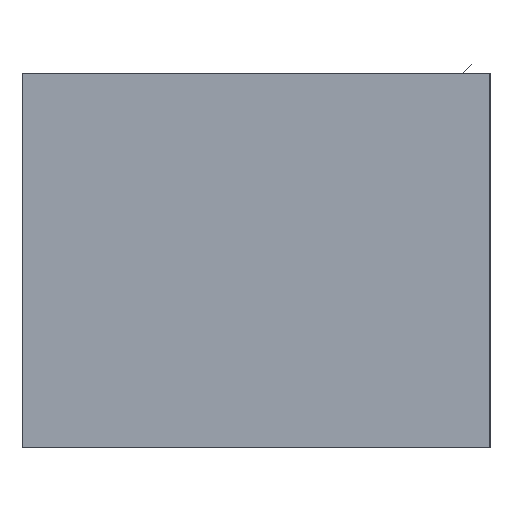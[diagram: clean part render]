
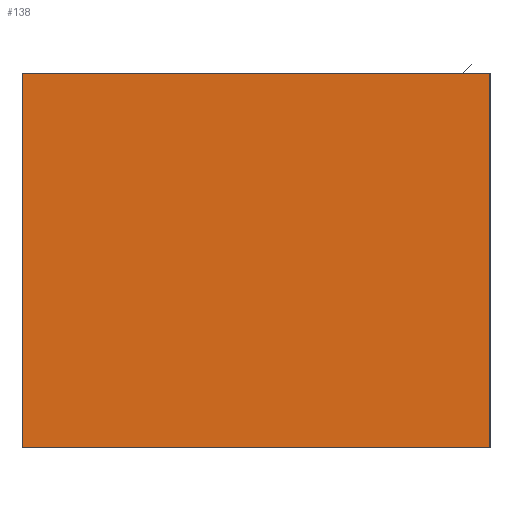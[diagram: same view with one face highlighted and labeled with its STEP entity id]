
A CAD part, left-side view. The second image highlights one B-rep face of the part: STEP entity #138.
In plain terms, the highlighted planar face has unit normal (-1, 0, 0).
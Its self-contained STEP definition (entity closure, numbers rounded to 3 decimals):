
#12 = ORIENTED_EDGE ( 'NONE', *, *, #14, .F. ) ;
#14 = EDGE_CURVE ( 'NONE', #347, #410, #36, .T. ) ;
#29 = AXIS2_PLACEMENT_3D ( 'NONE', #257, #118, #352 ) ;
#36 = LINE ( 'NONE', #174, #401 ) ;
#55 = VECTOR ( 'NONE', #205, 1000. ) ;
#58 = CARTESIAN_POINT ( 'NONE',  ( -250., -50., 1.5 ) ) ;
#81 = VERTEX_POINT ( 'NONE', #294 ) ;
#83 = PLANE ( 'NONE',  #29 ) ;
#86 = VECTOR ( 'NONE', #311, 1000. ) ;
#112 = VECTOR ( 'NONE', #396, 1000. ) ;
#117 = CARTESIAN_POINT ( 'NONE',  ( -250., 50., -78.5 ) ) ;
#118 = DIRECTION ( 'NONE',  ( 1., 0., 0. ) ) ;
#119 = EDGE_CURVE ( 'NONE', #81, #347, #292, .T. ) ;
#129 = VERTEX_POINT ( 'NONE', #117 ) ;
#131 = LINE ( 'NONE', #374, #55 ) ;
#138 = ADVANCED_FACE ( 'NONE', ( #388 ), #83, .F. ) ;
#174 = CARTESIAN_POINT ( 'NONE',  ( -250., -50., 1.5 ) ) ;
#194 = CARTESIAN_POINT ( 'NONE',  ( -250., 178.062, 1.5 ) ) ;
#205 = DIRECTION ( 'NONE',  ( 0., 0., 1. ) ) ;
#217 = ORIENTED_EDGE ( 'NONE', *, *, #438, .T. ) ;
#257 = CARTESIAN_POINT ( 'NONE',  ( -250., 178.062, 1.5 ) ) ;
#292 = LINE ( 'NONE', #194, #112 ) ;
#294 = CARTESIAN_POINT ( 'NONE',  ( -250., 50., 1.5 ) ) ;
#306 = EDGE_LOOP ( 'NONE', ( #315, #217, #12, #420 ) ) ;
#307 = DIRECTION ( 'NONE',  ( 0., 0., -1. ) ) ;
#311 = DIRECTION ( 'NONE',  ( 0., -1., 0. ) ) ;
#313 = EDGE_CURVE ( 'NONE', #129, #81, #131, .T. ) ;
#315 = ORIENTED_EDGE ( 'NONE', *, *, #313, .F. ) ;
#347 = VERTEX_POINT ( 'NONE', #58 ) ;
#352 = DIRECTION ( 'NONE',  ( 0., 0., -1. ) ) ;
#374 = CARTESIAN_POINT ( 'NONE',  ( -250., 50., 1.5 ) ) ;
#388 = FACE_OUTER_BOUND ( 'NONE', #306, .T. ) ;
#396 = DIRECTION ( 'NONE',  ( 0., -1., 0. ) ) ;
#401 = VECTOR ( 'NONE', #307, 1000. ) ;
#409 = LINE ( 'NONE', #419, #86 ) ;
#410 = VERTEX_POINT ( 'NONE', #417 ) ;
#417 = CARTESIAN_POINT ( 'NONE',  ( -250., -50., -78.5 ) ) ;
#419 = CARTESIAN_POINT ( 'NONE',  ( -250., 178.062, -78.5 ) ) ;
#420 = ORIENTED_EDGE ( 'NONE', *, *, #119, .F. ) ;
#438 = EDGE_CURVE ( 'NONE', #129, #410, #409, .T. ) ;
